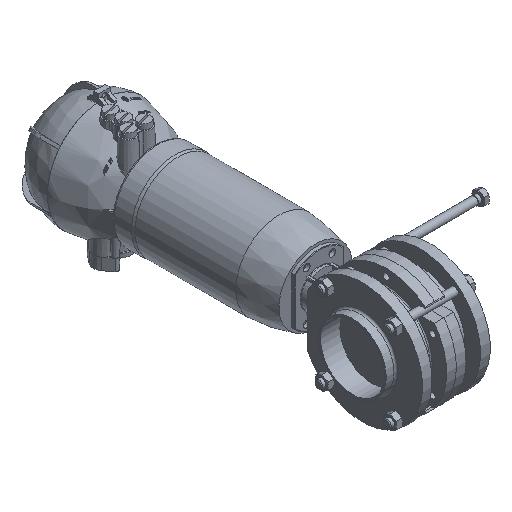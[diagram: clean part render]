
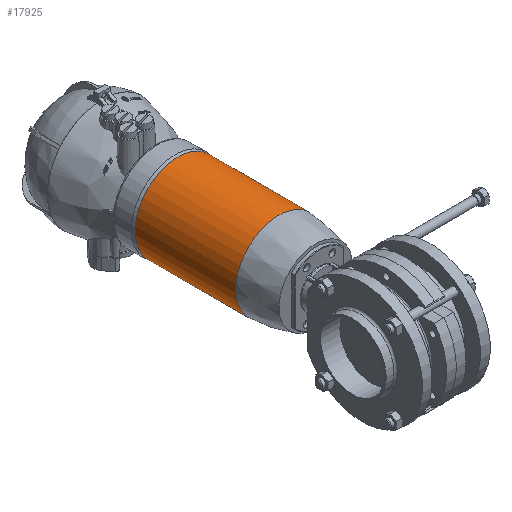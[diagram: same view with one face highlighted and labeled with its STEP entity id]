
A CAD part, isometric view. The second image highlights one B-rep face of the part: STEP entity #17925.
In plain terms, the highlighted cylindrical face has radius 44.5 mm (diameter 89 mm), a full revolution.
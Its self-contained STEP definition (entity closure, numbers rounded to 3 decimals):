
#3572=FACE_OUTER_BOUND('',#4606,.T.);
#4606=EDGE_LOOP('',(#15840,#15841,#15842,#15843,#15844));
#5618=LINE('',#32694,#6518);
#6518=VECTOR('',#24934,44.5);
#7269=CIRCLE('',#20194,44.5);
#7270=CIRCLE('',#20196,44.5);
#7271=CIRCLE('',#20197,44.5);
#8882=VERTEX_POINT('',#32687);
#8883=VERTEX_POINT('',#32691);
#8884=VERTEX_POINT('',#32692);
#11249=EDGE_CURVE('',#8882,#8882,#7269,.T.);
#11251=EDGE_CURVE('',#8883,#8884,#7270,.T.);
#11252=EDGE_CURVE('',#8883,#8882,#5618,.T.);
#11253=EDGE_CURVE('',#8884,#8883,#7271,.T.);
#15840=ORIENTED_EDGE('',*,*,#11251,.F.);
#15841=ORIENTED_EDGE('',*,*,#11252,.T.);
#15842=ORIENTED_EDGE('',*,*,#11249,.T.);
#15843=ORIENTED_EDGE('',*,*,#11252,.F.);
#15844=ORIENTED_EDGE('',*,*,#11253,.F.);
#17114=CYLINDRICAL_SURFACE('',#20195,44.5);
#17925=ADVANCED_FACE('',(#3572),#17114,.T.);
#20194=AXIS2_PLACEMENT_3D('',#32688,#24927,#24928);
#20195=AXIS2_PLACEMENT_3D('',#32690,#24930,#24931);
#20196=AXIS2_PLACEMENT_3D('',#32693,#24932,#24933);
#20197=AXIS2_PLACEMENT_3D('',#32695,#24935,#24936);
#24927=DIRECTION('center_axis',(0.,0.,-1.));
#24928=DIRECTION('ref_axis',(0.,1.,0.));
#24930=DIRECTION('center_axis',(0.,0.,-1.));
#24931=DIRECTION('ref_axis',(0.,1.,0.));
#24932=DIRECTION('center_axis',(0.,0.,-1.));
#24933=DIRECTION('ref_axis',(0.,1.,0.));
#24934=DIRECTION('',(0.,0.,1.));
#24935=DIRECTION('center_axis',(0.,0.,-1.));
#24936=DIRECTION('ref_axis',(0.,1.,0.));
#32687=CARTESIAN_POINT('',(0.,-44.5,142.5));
#32688=CARTESIAN_POINT('Origin',(0.,0.,142.5));
#32690=CARTESIAN_POINT('Origin',(0.,0.,54.568));
#32691=CARTESIAN_POINT('',(0.,-44.5,38.136));
#32692=CARTESIAN_POINT('',(44.5,0.,38.136));
#32693=CARTESIAN_POINT('Origin',(0.,0.,38.136));
#32694=CARTESIAN_POINT('',(0.,-44.5,54.568));
#32695=CARTESIAN_POINT('Origin',(0.,0.,38.136));
